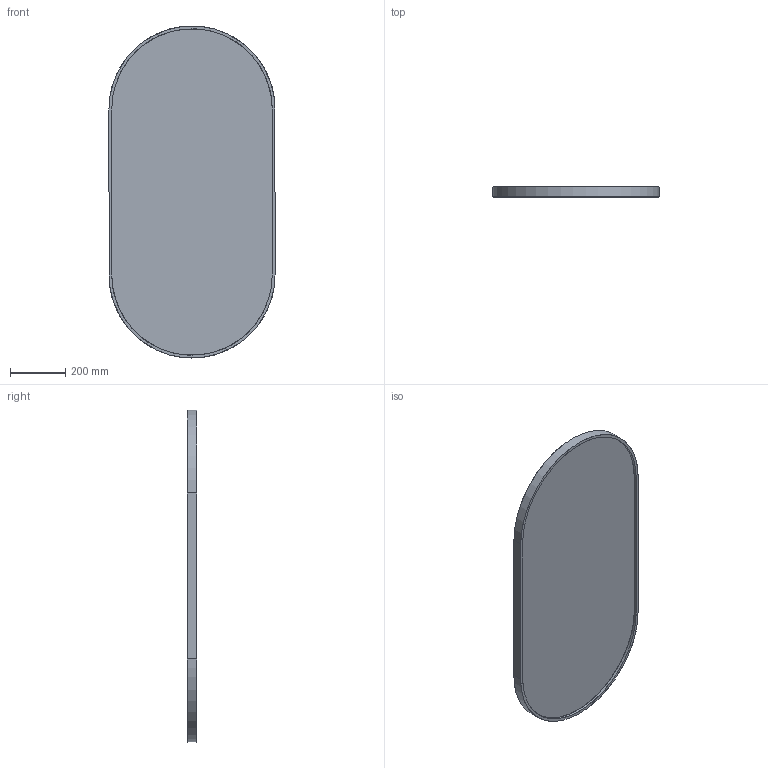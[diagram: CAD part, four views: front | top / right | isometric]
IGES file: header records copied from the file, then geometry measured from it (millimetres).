
Global section: file name: \\Archi-NAS\Comune\X GIOVANNI\SCHEDE PRODOTTO\SPECCHI\MIRR FORUM\MOMA DESIGN_SPECCHI_MIRR FORUM WOOD.igs; native system: Rhinoceros ( Jan 17 2018 ); preprocessor: Trout Lake IGES 012 Jan 17 2018; date: 230619.151341; units: millimetre
Bounding box: 600 x 35 x 1200 mm (x, y, z)
Surface area: 1423704.7 mm2 (no closed solid volume)
Topology: 0 solids, 0 shells, 11 faces, 68 edges, 68 vertices
Faces by surface type: bspline 11
